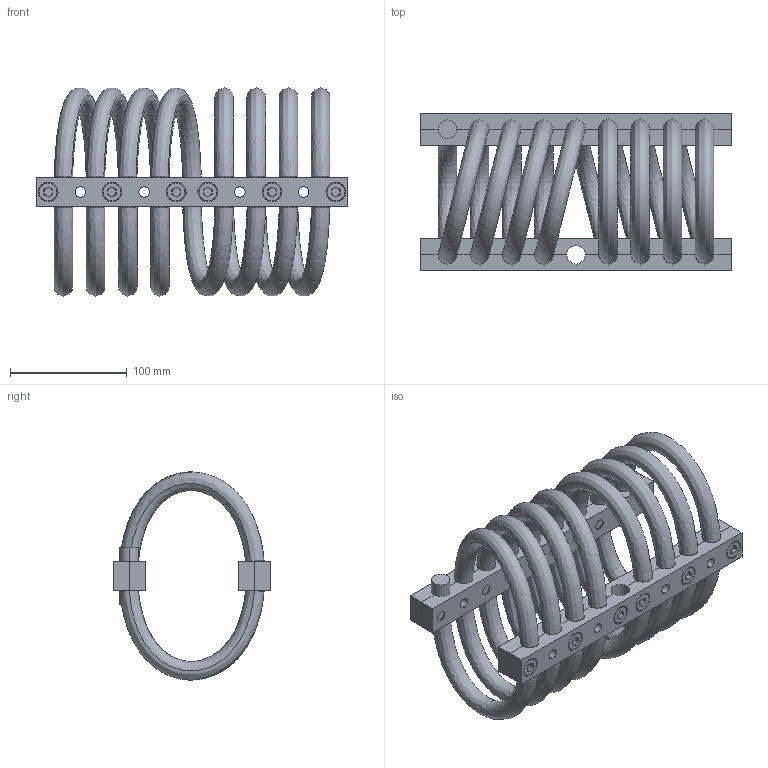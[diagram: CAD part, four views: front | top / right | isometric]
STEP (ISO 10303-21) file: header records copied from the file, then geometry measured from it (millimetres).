
FILE_DESCRIPTION (( 'STEP AP214' ), '1' );
FILE_NAME ('WR20-900-8DM.STEP', '2018-12-07T10:11:36', ( 'user' ), ( 'Microsoft' ), 'SwSTEP 2.0', 'SolidWorks 2016', '' );
FILE_SCHEMA (( 'AUTOMOTIVE_DESIGN' ));
Length unit declared in the file: millimetre
Products named in the file (1): WR20-900-8DM
Bounding box: 266.7 x 135 x 177.96 mm (x, y, z)
Volume: 1015366.8 mm3; surface area: 309637 mm2
Topology: 34 solids, 34 shells, 672 faces, 1564 edges, 996 vertices
Faces by surface type: plane 300, cylinder 266, cone 72, bspline 34
Entity records: 35539 total; most frequent: CARTESIAN_POINT 18671, DIRECTION 3188, ORIENTED_EDGE 3128, EDGE_CURVE 1564, AXIS2_PLACEMENT_3D 1167, VERTEX_POINT 996, LINE 854, VECTOR 854
